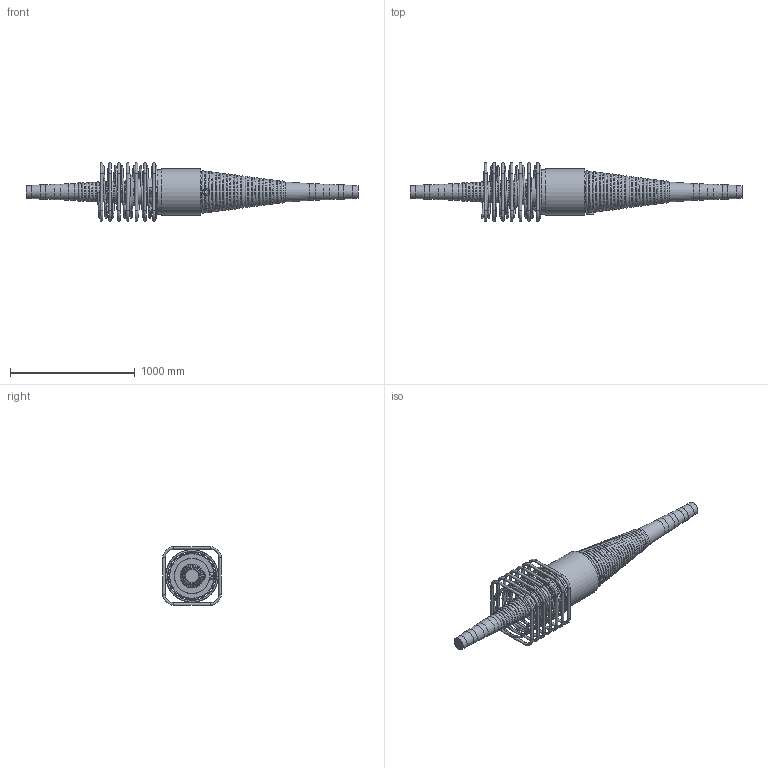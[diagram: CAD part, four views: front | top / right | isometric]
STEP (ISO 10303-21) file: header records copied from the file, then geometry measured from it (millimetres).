
FILE_DESCRIPTION(/* description */ (''),/* implementation_level */ '2;1');
FILE_NAME(/* name */ 'Z:\04 Publications\05 Give-out\BBR\6_3D_Models\BBR VT CONA CMI\BBR VT CONA CMI BT\02506\BBR VT CONA CMI BT 2506_Coupler H Assembly_CS-34,28.stp',/* time_stamp */ '2017-05-05T10:23:53+02:00',/* author */ ('IP'),/* organization */ (''),/* preprocessor_version */ 'ST-DEVELOPER v16.1',/* originating_system */ 'Autodesk Inventor 2016',/* authorisation */ '');
FILE_SCHEMA (('AUTOMOTIVE_DESIGN { 1 0 10303 214 3 1 1 }'));
Products named in the file (1): BBR VT CONA CMI BT 2506_Coupler H Assembly_CS-34,28
Bounding box: 2658.22 x 470 x 470 mm (x, y, z)
Volume: 109084103.5 mm3; surface area: 3288380.2 mm2
Topology: 9 solids, 9 shells, 1020 faces, 2574 edges, 1621 vertices
Faces by surface type: bspline 414, plane 267, torus 170, cylinder 118, cone 41, sphere 10
Full cylindrical faces by diameter (mm): 20 x28, 34 x1, 34.089 x1, 57 x1, 57.089 x1, 104 x2, 114 x2, 124 x2, 134 x2, 208 x1, 279 x1, 283 x1, 360 x1, 375 x1
Entity records: 44253 total; most frequent: CARTESIAN_POINT 22838, ORIENTED_EDGE 4646, DIRECTION 3271, EDGE_CURVE 2323, VERTEX_POINT 1611, EDGE_LOOP 1326, AXIS2_PLACEMENT_3D 1177, FACE_OUTER_BOUND 1020
